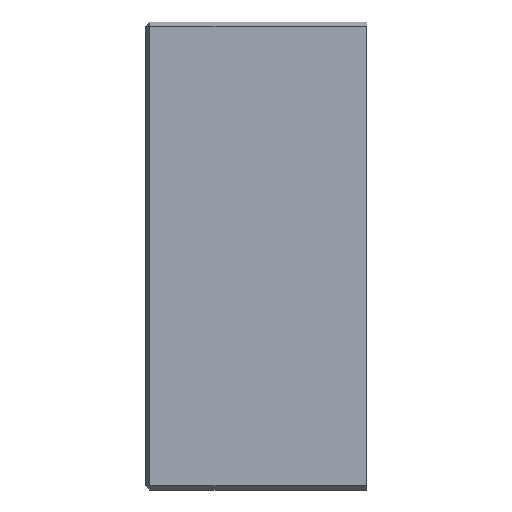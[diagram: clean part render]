
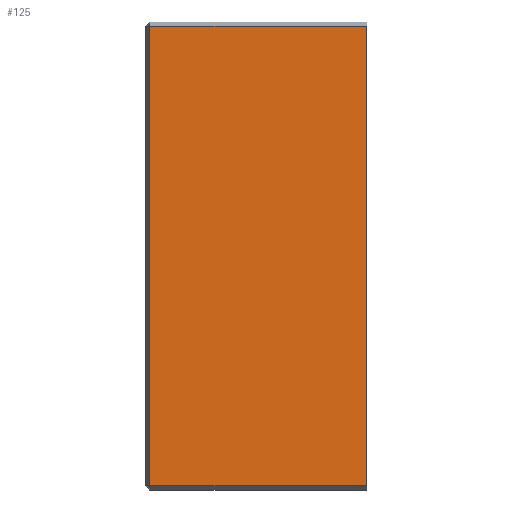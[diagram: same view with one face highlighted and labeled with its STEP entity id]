
A CAD part, top view. The second image highlights one B-rep face of the part: STEP entity #125.
In plain terms, the highlighted planar face has unit normal (0, 0, 1).
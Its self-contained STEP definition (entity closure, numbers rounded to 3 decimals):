
#125=ADVANCED_FACE('',(#388),#390,.T.);
#388=FACE_BOUND('',#389,.T.);
#389=EDGE_LOOP('',(#582,#583,#584,#585));
#390=PLANE('',#391);
#391=AXIS2_PLACEMENT_3D('',#392,#393,#394);
#392=CARTESIAN_POINT('',(0.,0.,1.5));
#393=DIRECTION('',(0.,0.,1.));
#394=DIRECTION('',(-1.,0.,0.));
#582=ORIENTED_EDGE('',*,*,#690,.F.);
#583=ORIENTED_EDGE('',*,*,#670,.F.);
#584=ORIENTED_EDGE('',*,*,#689,.T.);
#585=ORIENTED_EDGE('',*,*,#691,.F.);
#670=EDGE_CURVE('',#731,#727,#733,.F.);
#689=EDGE_CURVE('',#731,#762,#764,.T.);
#690=EDGE_CURVE('',#727,#765,#766,.F.);
#691=EDGE_CURVE('',#765,#762,#767,.F.);
#727=VERTEX_POINT('',#816);
#731=VERTEX_POINT('',#824);
#733=LINE('',#828,#829);
#762=VERTEX_POINT('',#893);
#764=LINE('',#897,#898);
#765=VERTEX_POINT('',#900);
#766=LINE('',#901,#902);
#767=LINE('',#904,#905);
#816=CARTESIAN_POINT('',(-21.8,-46.2,1.5));
#824=CARTESIAN_POINT('',(0.,-46.2,1.5));
#828=CARTESIAN_POINT('',(-21.8,-46.2,1.5));
#829=VECTOR('',#830,1.);
#830=DIRECTION('',(1.,0.,0.));
#893=CARTESIAN_POINT('',(0.,0.,1.5));
#897=CARTESIAN_POINT('',(0.,-46.2,1.5));
#898=VECTOR('',#899,1.);
#899=DIRECTION('',(0.,1.,0.));
#900=CARTESIAN_POINT('',(-21.8,0.,1.5));
#901=CARTESIAN_POINT('',(-21.8,0.,1.5));
#902=VECTOR('',#903,1.);
#903=DIRECTION('',(0.,-1.,0.));
#904=CARTESIAN_POINT('',(0.,0.,1.5));
#905=VECTOR('',#906,1.);
#906=DIRECTION('',(-1.,0.,0.));
